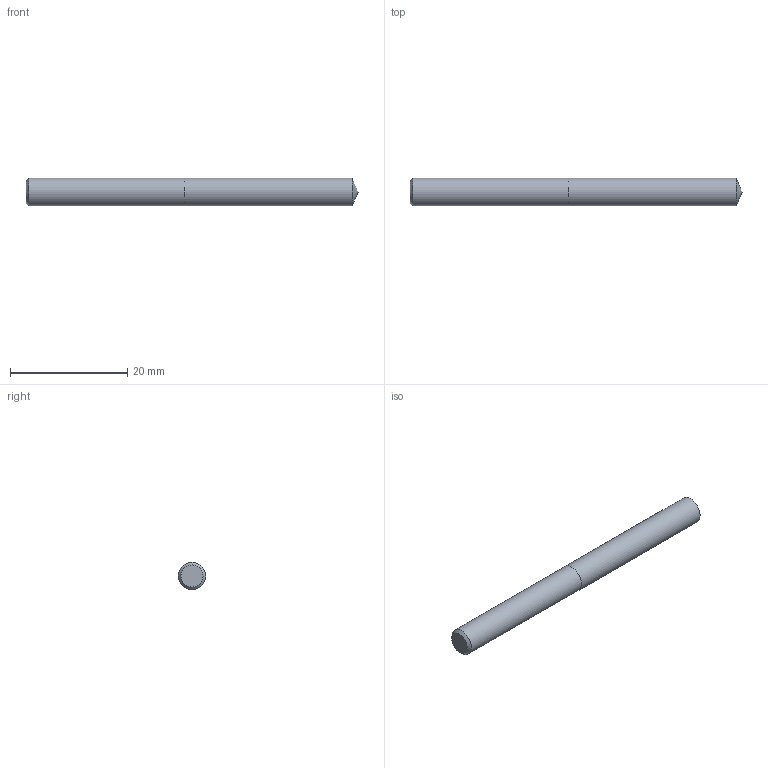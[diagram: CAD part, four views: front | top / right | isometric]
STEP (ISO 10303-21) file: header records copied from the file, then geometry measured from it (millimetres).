
FILE_DESCRIPTION (( 'STEP AP214' ), '1' );
FILE_NAME ('03-2355.STEP', '2022-06-03T06:38:58', ( 'USER' ), ( '' ), 'SwSTEP 2.0', 'SolidWorks 2018', '' );
FILE_SCHEMA (( 'AUTOMOTIVE_DESIGN' ));
Length unit declared in the file: inch
Products named in the file (1): 03-2355
Bounding box: 56.54 x 4.7 x 4.7 mm (x, y, z)
Volume: 967.7 mm3; surface area: 886.7 mm2
Topology: 2 solids, 2 shells, 7 faces, 11 edges, 7 vertices
Faces by surface type: plane 3, cylinder 2, cone 2
Full cylindrical faces by diameter (mm): 4.699 x2
Entity records: 214 total; most frequent: DIRECTION 26, CARTESIAN_POINT 18, AXIS2_PLACEMENT_3D 13, EDGE_LOOP 10, ORIENTED_EDGE 10, FACE_OUTER_BOUND 9, UNCERTAINTY_MEASURE_WITH_UNIT 7, LENGTH_MEASURE_WITH_UNIT 7
